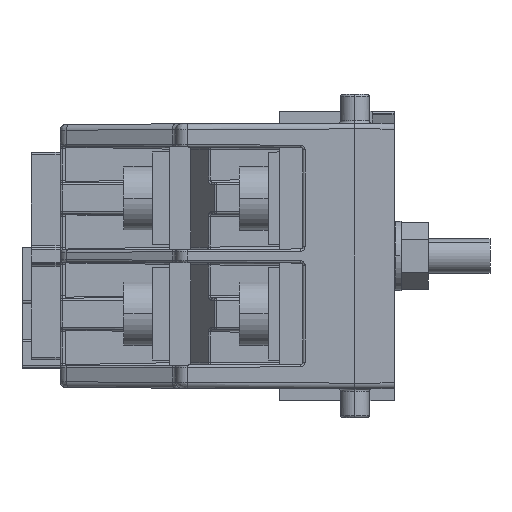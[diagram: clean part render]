
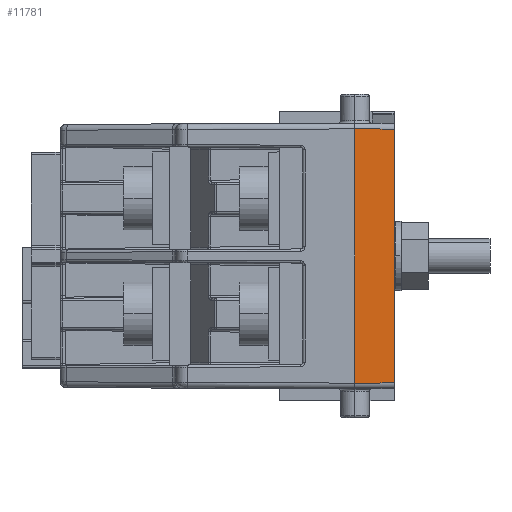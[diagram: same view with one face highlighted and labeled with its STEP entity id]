
A CAD part, left-side view. The second image highlights one B-rep face of the part: STEP entity #11781.
In plain terms, the highlighted planar face has unit normal (-1, -0.004, 0).
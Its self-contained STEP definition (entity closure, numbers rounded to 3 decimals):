
#1176 = PLANE ( 'NONE',  #2615 ) ;
#1177 = CARTESIAN_POINT ( 'NONE',  ( -52.5, 3.5, 11.5 ) ) ;
#1178 = DIRECTION ( 'NONE',  ( -1., -0.004, 0. ) ) ;
#1179 = DIRECTION ( 'NONE',  ( 0.004, -1., 0. ) ) ;
#2615 = AXIS2_PLACEMENT_3D ( 'NONE', #1177, #1178, #1179 ) ;
#5308 = CARTESIAN_POINT ( 'NONE',  ( -52.5, 3.502, 11. ) ) ;
#5309 = DIRECTION ( 'NONE',  ( -0.004, 1., 0.004 ) ) ;
#5310 = CARTESIAN_POINT ( 'NONE',  ( -52.485, 0.1, 11.5 ) ) ;
#5311 = DIRECTION ( 'NONE',  ( 0., 0., -1. ) ) ;
#5312 = CARTESIAN_POINT ( 'NONE',  ( -52.5, 3.5, 11.5 ) ) ;
#5313 = DIRECTION ( 'NONE',  ( 0., 0., -1. ) ) ;
#5314 = CARTESIAN_POINT ( 'NONE',  ( -52.5, 3.402, -11. ) ) ;
#5315 = DIRECTION ( 'NONE',  ( 0.004, -1., 0.004 ) ) ;
#11248 = EDGE_LOOP ( 'NONE', ( #12796, #12823, #12825, #12824 ) ) ;
#11781 = ADVANCED_FACE ( 'NONE', ( #28016 ), #1176, .T. ) ;
#12796 = ORIENTED_EDGE ( 'NONE', *, *, #27205, .F. ) ;
#12823 = ORIENTED_EDGE ( 'NONE', *, *, #27204, .T. ) ;
#12824 = ORIENTED_EDGE ( 'NONE', *, *, #27207, .T. ) ;
#12825 = ORIENTED_EDGE ( 'NONE', *, *, #27206, .T. ) ;
#13880 = VERTEX_POINT ( 'NONE', #22817 ) ;
#13881 = VERTEX_POINT ( 'NONE', #22818 ) ;
#14340 = VERTEX_POINT ( 'NONE', #23277 ) ;
#14360 = VERTEX_POINT ( 'NONE', #23297 ) ;
#22079 = VECTOR ( 'NONE', #5309, 1000. ) ;
#22080 = VECTOR ( 'NONE', #5311, 1000. ) ;
#22081 = VECTOR ( 'NONE', #5313, 1000. ) ;
#22082 = VECTOR ( 'NONE', #5315, 1000. ) ;
#22817 = CARTESIAN_POINT ( 'NONE',  ( -52.485, 0.1, 10.985 ) ) ;
#22818 = CARTESIAN_POINT ( 'NONE',  ( -52.5, 3.5, -11. ) ) ;
#23277 = CARTESIAN_POINT ( 'NONE',  ( -52.485, 0.1, -10.985 ) ) ;
#23297 = CARTESIAN_POINT ( 'NONE',  ( -52.5, 3.5, 11. ) ) ;
#27204 = EDGE_CURVE ( 'NONE', #13880, #14360, #31567, .T. ) ;
#27205 = EDGE_CURVE ( 'NONE', #13880, #14340, #31568, .T. ) ;
#27206 = EDGE_CURVE ( 'NONE', #14360, #13881, #31569, .T. ) ;
#27207 = EDGE_CURVE ( 'NONE', #13881, #14340, #31570, .T. ) ;
#28016 = FACE_OUTER_BOUND ( 'NONE', #11248, .T. ) ;
#31567 = LINE ( 'NONE', #5308, #22079 ) ;
#31568 = LINE ( 'NONE', #5310, #22080 ) ;
#31569 = LINE ( 'NONE', #5312, #22081 ) ;
#31570 = LINE ( 'NONE', #5314, #22082 ) ;
